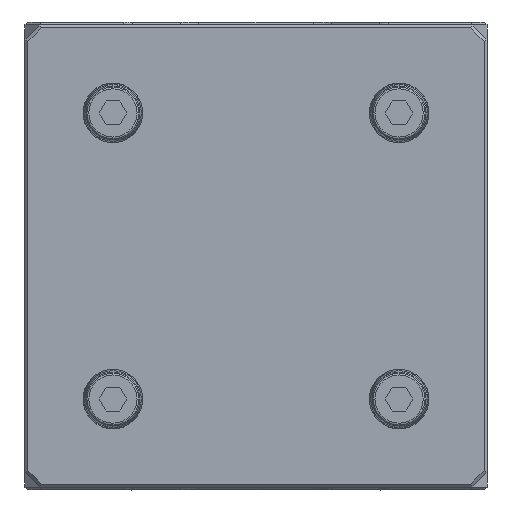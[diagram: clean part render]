
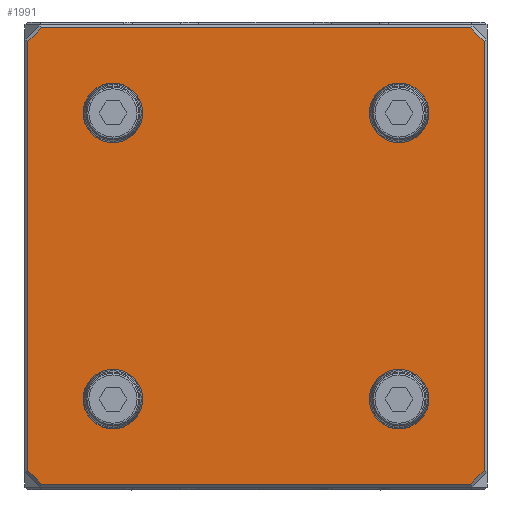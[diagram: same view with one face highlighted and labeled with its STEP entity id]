
A CAD part, front view. The second image highlights one B-rep face of the part: STEP entity #1991.
In plain terms, the highlighted planar face has unit normal (0, -1, 0).
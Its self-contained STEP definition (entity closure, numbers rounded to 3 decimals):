
#5=CARTESIAN_POINT('',(48.,-45.,48.));
#6=DIRECTION('',(0.,1.,0.));
#7=DIRECTION('',(0.,0.,-1.));
#8=AXIS2_PLACEMENT_3D('',#5,#6,#7);
#10=CARTESIAN_POINT('',(48.,-45.,48.));
#11=DIRECTION('',(0.,1.,0.));
#12=DIRECTION('',(0.,0.,1.));
#13=AXIS2_PLACEMENT_3D('',#10,#11,#12);
#15=CARTESIAN_POINT('',(48.,-45.,-48.));
#16=DIRECTION('',(0.,1.,0.));
#17=DIRECTION('',(0.,0.,-1.));
#18=AXIS2_PLACEMENT_3D('',#15,#16,#17);
#20=CARTESIAN_POINT('',(48.,-45.,-48.));
#21=DIRECTION('',(0.,1.,0.));
#22=DIRECTION('',(0.,0.,1.));
#23=AXIS2_PLACEMENT_3D('',#20,#21,#22);
#25=CARTESIAN_POINT('',(-48.,-45.,-48.));
#26=DIRECTION('',(0.,1.,0.));
#27=DIRECTION('',(0.,0.,-1.));
#28=AXIS2_PLACEMENT_3D('',#25,#26,#27);
#30=CARTESIAN_POINT('',(-48.,-45.,-48.));
#31=DIRECTION('',(0.,1.,0.));
#32=DIRECTION('',(0.,0.,1.));
#33=AXIS2_PLACEMENT_3D('',#30,#31,#32);
#35=CARTESIAN_POINT('',(-48.,-45.,48.));
#36=DIRECTION('',(0.,1.,0.));
#37=DIRECTION('',(0.,0.,-1.));
#38=AXIS2_PLACEMENT_3D('',#35,#36,#37);
#40=CARTESIAN_POINT('',(-48.,-45.,48.));
#41=DIRECTION('',(0.,1.,0.));
#42=DIRECTION('',(0.,0.,1.));
#43=AXIS2_PLACEMENT_3D('',#40,#41,#42);
#45=DIRECTION('',(-1.,0.,0.));
#46=VECTOR('',#45,144.172);
#47=CARTESIAN_POINT('',(72.086,-45.,76.5));
#48=LINE('',#47,#46);
#49=DIRECTION('',(-0.707,0.,0.707));
#50=VECTOR('',#49,6.243);
#51=CARTESIAN_POINT('',(76.5,-45.,72.086));
#52=LINE('',#51,#50);
#53=DIRECTION('',(0.,0.,1.));
#54=VECTOR('',#53,144.172);
#55=CARTESIAN_POINT('',(76.5,-45.,-72.086));
#56=LINE('',#55,#54);
#57=DIRECTION('',(0.707,0.,0.707));
#58=VECTOR('',#57,6.243);
#59=CARTESIAN_POINT('',(72.086,-45.,-76.5));
#60=LINE('',#59,#58);
#61=DIRECTION('',(1.,0.,0.));
#62=VECTOR('',#61,144.172);
#63=CARTESIAN_POINT('',(-72.086,-45.,-76.5));
#64=LINE('',#63,#62);
#65=DIRECTION('',(0.707,0.,-0.707));
#66=VECTOR('',#65,6.243);
#67=CARTESIAN_POINT('',(-76.5,-45.,-72.086));
#68=LINE('',#67,#66);
#69=DIRECTION('',(0.,0.,-1.));
#70=VECTOR('',#69,144.172);
#71=CARTESIAN_POINT('',(-76.5,-45.,72.086));
#72=LINE('',#71,#70);
#73=DIRECTION('',(0.707,0.,0.707));
#74=VECTOR('',#73,6.243);
#75=CARTESIAN_POINT('',(-76.5,-45.,72.086));
#76=LINE('',#75,#74);
#1689=CARTESIAN_POINT('',(48.,-45.,39.5));
#1690=CARTESIAN_POINT('',(48.,-45.,56.5));
#1691=VERTEX_POINT('',#1689);
#1692=VERTEX_POINT('',#1690);
#1697=CARTESIAN_POINT('',(48.,-45.,-56.5));
#1698=CARTESIAN_POINT('',(48.,-45.,-39.5));
#1699=VERTEX_POINT('',#1697);
#1700=VERTEX_POINT('',#1698);
#1705=CARTESIAN_POINT('',(-48.,-45.,-56.5));
#1706=CARTESIAN_POINT('',(-48.,-45.,-39.5));
#1707=VERTEX_POINT('',#1705);
#1708=VERTEX_POINT('',#1706);
#1713=CARTESIAN_POINT('',(-48.,-45.,39.5));
#1714=CARTESIAN_POINT('',(-48.,-45.,56.5));
#1715=VERTEX_POINT('',#1713);
#1716=VERTEX_POINT('',#1714);
#1721=CARTESIAN_POINT('',(72.086,-45.,76.5));
#1722=CARTESIAN_POINT('',(-72.086,-45.,76.5));
#1723=VERTEX_POINT('',#1721);
#1724=VERTEX_POINT('',#1722);
#1729=CARTESIAN_POINT('',(76.5,-45.,72.086));
#1730=VERTEX_POINT('',#1729);
#1733=CARTESIAN_POINT('',(76.5,-45.,-72.086));
#1734=VERTEX_POINT('',#1733);
#1737=CARTESIAN_POINT('',(72.086,-45.,-76.5));
#1738=VERTEX_POINT('',#1737);
#1741=CARTESIAN_POINT('',(-72.086,-45.,-76.5));
#1742=VERTEX_POINT('',#1741);
#1745=CARTESIAN_POINT('',(-76.5,-45.,-72.086));
#1746=VERTEX_POINT('',#1745);
#1751=CARTESIAN_POINT('',(-76.5,-45.,72.086));
#1752=VERTEX_POINT('',#1751);
#1945=CARTESIAN_POINT('',(0.,-45.,0.));
#1946=DIRECTION('',(0.,1.,0.));
#1947=DIRECTION('',(1.,0.,0.));
#1948=AXIS2_PLACEMENT_3D('',#1945,#1946,#1947);
#1949=PLANE('',#1948);
#1951=ORIENTED_EDGE('',*,*,#1950,.F.);
#1953=ORIENTED_EDGE('',*,*,#1952,.F.);
#1955=ORIENTED_EDGE('',*,*,#1954,.F.);
#1957=ORIENTED_EDGE('',*,*,#1956,.F.);
#1959=ORIENTED_EDGE('',*,*,#1958,.F.);
#1961=ORIENTED_EDGE('',*,*,#1960,.F.);
#1963=ORIENTED_EDGE('',*,*,#1962,.F.);
#1965=ORIENTED_EDGE('',*,*,#1964,.T.);
#1966=EDGE_LOOP('',(#1951,#1953,#1955,#1957,#1959,#1961,#1963,#1965));
#1967=FACE_OUTER_BOUND('',#1966,.F.);
#1969=ORIENTED_EDGE('',*,*,#1968,.F.);
#1971=ORIENTED_EDGE('',*,*,#1970,.F.);
#1972=EDGE_LOOP('',(#1969,#1971));
#1973=FACE_BOUND('',#1972,.F.);
#1975=ORIENTED_EDGE('',*,*,#1974,.F.);
#1977=ORIENTED_EDGE('',*,*,#1976,.F.);
#1978=EDGE_LOOP('',(#1975,#1977));
#1979=FACE_BOUND('',#1978,.F.);
#1980=ORIENTED_EDGE('',*,*,#1934,.F.);
#1982=ORIENTED_EDGE('',*,*,#1981,.F.);
#1983=EDGE_LOOP('',(#1980,#1982));
#1984=FACE_BOUND('',#1983,.F.);
#1986=ORIENTED_EDGE('',*,*,#1985,.F.);
#1988=ORIENTED_EDGE('',*,*,#1987,.F.);
#1989=EDGE_LOOP('',(#1986,#1988));
#1990=FACE_BOUND('',#1989,.F.);
#1991=ADVANCED_FACE('',(#1967,#1973,#1979,#1984,#1990),#1949,.F.);
#9=CIRCLE('',#8,8.5);
#14=CIRCLE('',#13,8.5);
#19=CIRCLE('',#18,8.5);
#24=CIRCLE('',#23,8.5);
#29=CIRCLE('',#28,8.5);
#34=CIRCLE('',#33,8.5);
#39=CIRCLE('',#38,8.5);
#44=CIRCLE('',#43,8.5);
#1934=EDGE_CURVE('',#1715,#1716,#39,.T.);
#1950=EDGE_CURVE('',#1723,#1724,#48,.T.);
#1952=EDGE_CURVE('',#1730,#1723,#52,.T.);
#1954=EDGE_CURVE('',#1734,#1730,#56,.T.);
#1956=EDGE_CURVE('',#1738,#1734,#60,.T.);
#1958=EDGE_CURVE('',#1742,#1738,#64,.T.);
#1960=EDGE_CURVE('',#1746,#1742,#68,.T.);
#1962=EDGE_CURVE('',#1752,#1746,#72,.T.);
#1964=EDGE_CURVE('',#1752,#1724,#76,.T.);
#1968=EDGE_CURVE('',#1699,#1700,#19,.T.);
#1970=EDGE_CURVE('',#1700,#1699,#24,.T.);
#1974=EDGE_CURVE('',#1707,#1708,#29,.T.);
#1976=EDGE_CURVE('',#1708,#1707,#34,.T.);
#1981=EDGE_CURVE('',#1716,#1715,#44,.T.);
#1985=EDGE_CURVE('',#1691,#1692,#9,.T.);
#1987=EDGE_CURVE('',#1692,#1691,#14,.T.);
